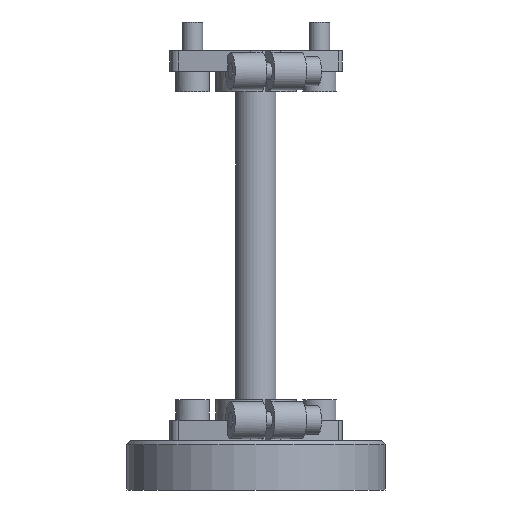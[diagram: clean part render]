
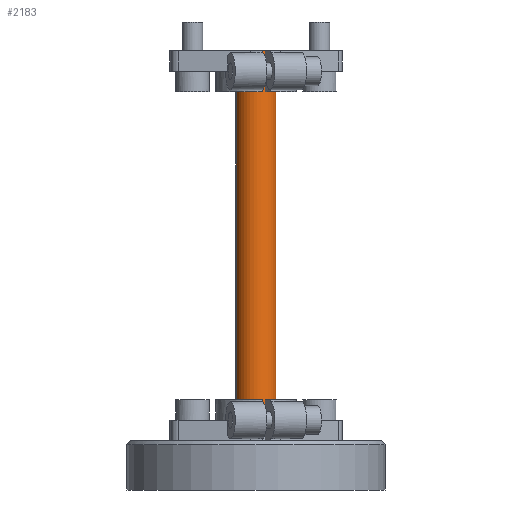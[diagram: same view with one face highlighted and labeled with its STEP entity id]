
A CAD part, front view. The second image highlights one B-rep face of the part: STEP entity #2183.
In plain terms, the highlighted cylindrical face has radius 5 mm (diameter 10 mm), a partial arc.
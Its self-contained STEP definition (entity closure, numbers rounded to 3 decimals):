
#65 = CARTESIAN_POINT ( 'NONE',  ( -4.83, -1.294, 57. ) ) ;
#96 = ORIENTED_EDGE ( 'NONE', *, *, #952, .T. ) ;
#288 = DIRECTION ( 'NONE',  ( 0.966, 0.259, 0. ) ) ;
#320 = EDGE_CURVE ( 'NONE', #6700, #6169, #6897, .T. ) ;
#397 = EDGE_CURVE ( 'NONE', #6169, #7761, #448, .T. ) ;
#448 = CIRCLE ( 'NONE', #5037, 5. ) ;
#469 = CARTESIAN_POINT ( 'NONE',  ( -4.83, -1.294, 97. ) ) ;
#490 = DIRECTION ( 'NONE',  ( 0., 0., -1. ) ) ;
#545 = VERTEX_POINT ( 'NONE', #12818 ) ;
#565 = DIRECTION ( 'NONE',  ( 0.966, 0.259, 0. ) ) ;
#596 = DIRECTION ( 'NONE',  ( 0., 0., -1. ) ) ;
#604 = CARTESIAN_POINT ( 'NONE',  ( 0., 0., 102. ) ) ;
#838 = DIRECTION ( 'NONE',  ( 0., 0., -1. ) ) ;
#856 = DIRECTION ( 'NONE',  ( 0., 0., -1. ) ) ;
#931 = CARTESIAN_POINT ( 'NONE',  ( 1.294, -4.83, 17. ) ) ;
#952 = EDGE_CURVE ( 'NONE', #4567, #7145, #4901, .T. ) ;
#1192 = DIRECTION ( 'NONE',  ( 0., 0., -1. ) ) ;
#1347 = AXIS2_PLACEMENT_3D ( 'NONE', #8623, #856, #288 ) ;
#1435 = DIRECTION ( 'NONE',  ( 0.966, 0.259, 0. ) ) ;
#1477 = DIRECTION ( 'NONE',  ( 0., 0., -1. ) ) ;
#1529 = CARTESIAN_POINT ( 'NONE',  ( 0., 0., 17. ) ) ;
#1578 = EDGE_CURVE ( 'NONE', #10035, #11269, #4050, .T. ) ;
#1579 = AXIS2_PLACEMENT_3D ( 'NONE', #1529, #1477, #1435 ) ;
#1633 = VECTOR ( 'NONE', #8587, 1000. ) ;
#1671 = ORIENTED_EDGE ( 'NONE', *, *, #397, .F. ) ;
#1834 = AXIS2_PLACEMENT_3D ( 'NONE', #7352, #1192, #8384 ) ;
#2176 = EDGE_CURVE ( 'NONE', #12709, #6700, #2405, .T. ) ;
#2183 = ADVANCED_FACE ( 'NONE', ( #5174 ), #11691, .T. ) ;
#2388 = CARTESIAN_POINT ( 'NONE',  ( 0.302, -4.991, 102. ) ) ;
#2405 = LINE ( 'NONE', #11390, #7558 ) ;
#2448 = ORIENTED_EDGE ( 'NONE', *, *, #6956, .T. ) ;
#2578 = CARTESIAN_POINT ( 'NONE',  ( 0.484, -4.977, 17. ) ) ;
#2613 = ORIENTED_EDGE ( 'NONE', *, *, #5479, .T. ) ;
#2616 = DIRECTION ( 'NONE',  ( 0., 0., -1. ) ) ;
#2676 = CARTESIAN_POINT ( 'NONE',  ( 0.302, -4.991, 97. ) ) ;
#2723 = DIRECTION ( 'NONE',  ( 0., 0., 1. ) ) ;
#2803 = DIRECTION ( 'NONE',  ( 0., 0., -1. ) ) ;
#3228 = CIRCLE ( 'NONE', #12943, 5. ) ;
#3235 = EDGE_CURVE ( 'NONE', #10880, #4693, #8536, .T. ) ;
#3330 = DIRECTION ( 'NONE',  ( 0.966, 0.259, 0. ) ) ;
#3394 = ORIENTED_EDGE ( 'NONE', *, *, #7130, .T. ) ;
#3458 = CARTESIAN_POINT ( 'NONE',  ( 0., 0., 17. ) ) ;
#3835 = AXIS2_PLACEMENT_3D ( 'NONE', #11300, #5189, #12289 ) ;
#4050 = CIRCLE ( 'NONE', #1347, 5. ) ;
#4266 = ORIENTED_EDGE ( 'NONE', *, *, #12787, .F. ) ;
#4520 = LINE ( 'NONE', #9630, #12017 ) ;
#4567 = VERTEX_POINT ( 'NONE', #6600 ) ;
#4571 = VECTOR ( 'NONE', #2616, 1000. ) ;
#4693 = VERTEX_POINT ( 'NONE', #2388 ) ;
#4901 = LINE ( 'NONE', #469, #4571 ) ;
#5037 = AXIS2_PLACEMENT_3D ( 'NONE', #3458, #2803, #3330 ) ;
#5174 = FACE_OUTER_BOUND ( 'NONE', #9741, .T. ) ;
#5189 = DIRECTION ( 'NONE',  ( 0., 0., 1. ) ) ;
#5240 = CARTESIAN_POINT ( 'NONE',  ( -4.83, -1.294, 22. ) ) ;
#5316 = CARTESIAN_POINT ( 'NONE',  ( -4.83, -1.294, 107. ) ) ;
#5352 = EDGE_CURVE ( 'NONE', #545, #7761, #12485, .T. ) ;
#5417 = CARTESIAN_POINT ( 'NONE',  ( 0.484, -4.977, 17. ) ) ;
#5479 = EDGE_CURVE ( 'NONE', #12709, #7124, #3228, .T. ) ;
#6080 = CARTESIAN_POINT ( 'NONE',  ( 4.83, 1.294, 17. ) ) ;
#6169 = VERTEX_POINT ( 'NONE', #931 ) ;
#6194 = CARTESIAN_POINT ( 'NONE',  ( 4.83, 1.294, 102. ) ) ;
#6318 = ORIENTED_EDGE ( 'NONE', *, *, #5352, .T. ) ;
#6569 = VECTOR ( 'NONE', #9303, 1000. ) ;
#6600 = CARTESIAN_POINT ( 'NONE',  ( -4.83, -1.294, 97. ) ) ;
#6666 = CARTESIAN_POINT ( 'NONE',  ( 0., 0., 97. ) ) ;
#6684 = ORIENTED_EDGE ( 'NONE', *, *, #320, .F. ) ;
#6700 = VERTEX_POINT ( 'NONE', #6080 ) ;
#6732 = CARTESIAN_POINT ( 'NONE',  ( -4.83, -1.294, 102. ) ) ;
#6858 = ORIENTED_EDGE ( 'NONE', *, *, #2176, .F. ) ;
#6897 = CIRCLE ( 'NONE', #1579, 5. ) ;
#6906 = LINE ( 'NONE', #65, #6569 ) ;
#6914 = CIRCLE ( 'NONE', #12889, 5. ) ;
#6956 = EDGE_CURVE ( 'NONE', #10880, #4567, #6914, .T. ) ;
#7024 = CARTESIAN_POINT ( 'NONE',  ( 0., 0., 22. ) ) ;
#7081 = ORIENTED_EDGE ( 'NONE', *, *, #11071, .F. ) ;
#7124 = VERTEX_POINT ( 'NONE', #11215 ) ;
#7130 = EDGE_CURVE ( 'NONE', #7145, #12540, #8631, .T. ) ;
#7145 = VERTEX_POINT ( 'NONE', #5240 ) ;
#7352 = CARTESIAN_POINT ( 'NONE',  ( 0., 0., 102. ) ) ;
#7558 = VECTOR ( 'NONE', #11342, 1000. ) ;
#7667 = DIRECTION ( 'NONE',  ( 0.966, 0.259, 0. ) ) ;
#7761 = VERTEX_POINT ( 'NONE', #5417 ) ;
#7805 = ORIENTED_EDGE ( 'NONE', *, *, #1578, .T. ) ;
#7865 = CIRCLE ( 'NONE', #11798, 5. ) ;
#8042 = DIRECTION ( 'NONE',  ( 0.966, 0.259, 0. ) ) ;
#8384 = DIRECTION ( 'NONE',  ( 0.966, 0.259, 0. ) ) ;
#8536 = LINE ( 'NONE', #2676, #10949 ) ;
#8587 = DIRECTION ( 'NONE',  ( 0., 0., -1. ) ) ;
#8623 = CARTESIAN_POINT ( 'NONE',  ( 0., 0., 107. ) ) ;
#8631 = CIRCLE ( 'NONE', #3835, 5. ) ;
#8667 = DIRECTION ( 'NONE',  ( 0., 0., 1. ) ) ;
#8832 = AXIS2_PLACEMENT_3D ( 'NONE', #11500, #11065, #10471 ) ;
#9048 = ORIENTED_EDGE ( 'NONE', *, *, #3235, .F. ) ;
#9177 = EDGE_CURVE ( 'NONE', #10956, #11269, #6906, .T. ) ;
#9303 = DIRECTION ( 'NONE',  ( 0., 0., 1. ) ) ;
#9414 = CIRCLE ( 'NONE', #1834, 5. ) ;
#9568 = ORIENTED_EDGE ( 'NONE', *, *, #9177, .F. ) ;
#9578 = ORIENTED_EDGE ( 'NONE', *, *, #10534, .T. ) ;
#9630 = CARTESIAN_POINT ( 'NONE',  ( 4.83, 1.294, 57. ) ) ;
#9741 = EDGE_LOOP ( 'NONE', ( #2613, #9578, #7805, #9568, #4266, #9048, #2448, #96, #3394, #7081, #6318, #1671, #6684, #6858 ) ) ;
#10035 = VERTEX_POINT ( 'NONE', #10855 ) ;
#10471 = DIRECTION ( 'NONE',  ( -0.259, 0.966, 0. ) ) ;
#10534 = EDGE_CURVE ( 'NONE', #7124, #10035, #4520, .T. ) ;
#10855 = CARTESIAN_POINT ( 'NONE',  ( 4.83, 1.294, 107. ) ) ;
#10880 = VERTEX_POINT ( 'NONE', #12672 ) ;
#10949 = VECTOR ( 'NONE', #2723, 1000. ) ;
#10956 = VERTEX_POINT ( 'NONE', #6732 ) ;
#11065 = DIRECTION ( 'NONE',  ( 0., 0., -1. ) ) ;
#11071 = EDGE_CURVE ( 'NONE', #545, #12540, #7865, .T. ) ;
#11215 = CARTESIAN_POINT ( 'NONE',  ( 4.83, 1.294, 102. ) ) ;
#11269 = VERTEX_POINT ( 'NONE', #5316 ) ;
#11300 = CARTESIAN_POINT ( 'NONE',  ( 0., 0., 22. ) ) ;
#11342 = DIRECTION ( 'NONE',  ( 0., 0., -1. ) ) ;
#11390 = CARTESIAN_POINT ( 'NONE',  ( 4.83, 1.294, 102. ) ) ;
#11500 = CARTESIAN_POINT ( 'NONE',  ( 0., 0., 97. ) ) ;
#11691 = CYLINDRICAL_SURFACE ( 'NONE', #8832, 5. ) ;
#11798 = AXIS2_PLACEMENT_3D ( 'NONE', #7024, #838, #8042 ) ;
#11970 = CARTESIAN_POINT ( 'NONE',  ( 0.303, -4.991, 22. ) ) ;
#12017 = VECTOR ( 'NONE', #8667, 1000. ) ;
#12289 = DIRECTION ( 'NONE',  ( -0.966, -0.259, 0. ) ) ;
#12485 = LINE ( 'NONE', #2578, #1633 ) ;
#12540 = VERTEX_POINT ( 'NONE', #11970 ) ;
#12672 = CARTESIAN_POINT ( 'NONE',  ( 0.302, -4.991, 97. ) ) ;
#12709 = VERTEX_POINT ( 'NONE', #6194 ) ;
#12787 = EDGE_CURVE ( 'NONE', #4693, #10956, #9414, .T. ) ;
#12818 = CARTESIAN_POINT ( 'NONE',  ( 0.484, -4.977, 22. ) ) ;
#12889 = AXIS2_PLACEMENT_3D ( 'NONE', #6666, #490, #7667 ) ;
#12943 = AXIS2_PLACEMENT_3D ( 'NONE', #604, #596, #565 ) ;
